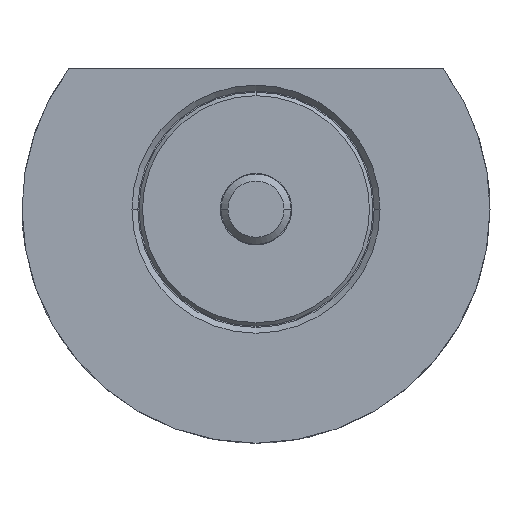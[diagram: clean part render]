
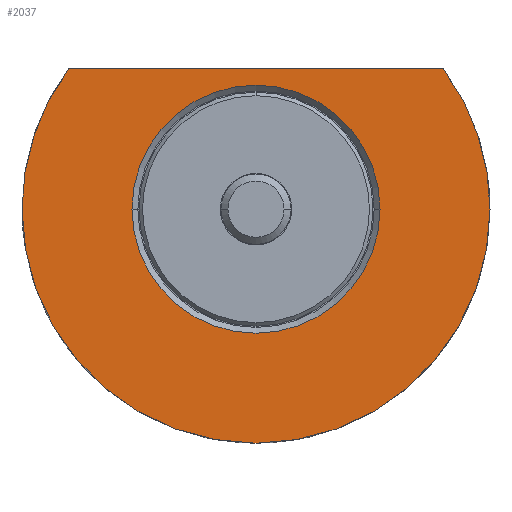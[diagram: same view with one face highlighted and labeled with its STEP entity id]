
A CAD part, front view. The second image highlights one B-rep face of the part: STEP entity #2037.
In plain terms, the highlighted planar face has unit normal (0, -1, 0).
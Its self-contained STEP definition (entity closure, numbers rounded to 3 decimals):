
#22 = EDGE_LOOP ( 'NONE', ( #1973, #1478 ) ) ;
#63 = ORIENTED_EDGE ( 'NONE', *, *, #595, .F. ) ;
#78 = CARTESIAN_POINT ( 'NONE',  ( -10.6, -10., 0. ) ) ;
#229 = EDGE_LOOP ( 'NONE', ( #1216, #1122, #2068, #63 ) ) ;
#263 = PLANE ( 'NONE',  #529 ) ;
#338 = CARTESIAN_POINT ( 'NONE',  ( 0., -10., 0. ) ) ;
#362 = DIRECTION ( 'NONE',  ( 0., 1., 0. ) ) ;
#400 = CIRCLE ( 'NONE', #1709, 20. ) ;
#412 = AXIS2_PLACEMENT_3D ( 'NONE', #908, #708, #496 ) ;
#493 = CIRCLE ( 'NONE', #412, 10.6 ) ;
#496 = DIRECTION ( 'NONE',  ( -1., 0., 0. ) ) ;
#500 = CARTESIAN_POINT ( 'NONE',  ( -16.001, -10., 11.999 ) ) ;
#529 = AXIS2_PLACEMENT_3D ( 'NONE', #78, #645, #896 ) ;
#547 = EDGE_CURVE ( 'NONE', #1098, #903, #400, .T. ) ;
#595 = EDGE_CURVE ( 'NONE', #903, #2023, #659, .T. ) ;
#616 = CARTESIAN_POINT ( 'NONE',  ( -20., -10., 0. ) ) ;
#645 = DIRECTION ( 'NONE',  ( 0., -1., 0. ) ) ;
#659 = CIRCLE ( 'NONE', #1083, 20. ) ;
#689 = CARTESIAN_POINT ( 'NONE',  ( 0., -10., 0. ) ) ;
#708 = DIRECTION ( 'NONE',  ( 0., 1., 0. ) ) ;
#714 = DIRECTION ( 'NONE',  ( 0., 1., 0. ) ) ;
#743 = AXIS2_PLACEMENT_3D ( 'NONE', #1463, #714, #2468 ) ;
#773 = CARTESIAN_POINT ( 'NONE',  ( -10.6, -10., 11.999 ) ) ;
#788 = DIRECTION ( 'NONE',  ( -1., 0., 0. ) ) ;
#813 = VERTEX_POINT ( 'NONE', #500 ) ;
#863 = EDGE_CURVE ( 'NONE', #1444, #1660, #1880, .T. ) ;
#864 = FACE_OUTER_BOUND ( 'NONE', #229, .T. ) ;
#896 = DIRECTION ( 'NONE',  ( 1., 0., 0. ) ) ;
#903 = VERTEX_POINT ( 'NONE', #1496 ) ;
#908 = CARTESIAN_POINT ( 'NONE',  ( 0., -10., 0. ) ) ;
#957 = EDGE_CURVE ( 'NONE', #2023, #813, #2599, .T. ) ;
#1083 = AXIS2_PLACEMENT_3D ( 'NONE', #338, #362, #1987 ) ;
#1098 = VERTEX_POINT ( 'NONE', #1547 ) ;
#1122 = ORIENTED_EDGE ( 'NONE', *, *, #1563, .T. ) ;
#1216 = ORIENTED_EDGE ( 'NONE', *, *, #547, .F. ) ;
#1250 = FACE_BOUND ( 'NONE', #22, .T. ) ;
#1341 = DIRECTION ( 'NONE',  ( 0., 1., 0. ) ) ;
#1354 = DIRECTION ( 'NONE',  ( -1., 0., 0. ) ) ;
#1444 = VERTEX_POINT ( 'NONE', #1764 ) ;
#1463 = CARTESIAN_POINT ( 'NONE',  ( 0., -10., 0. ) ) ;
#1478 = ORIENTED_EDGE ( 'NONE', *, *, #2272, .T. ) ;
#1496 = CARTESIAN_POINT ( 'NONE',  ( 20., -10., 0. ) ) ;
#1547 = CARTESIAN_POINT ( 'NONE',  ( 16.001, -10., 11.999 ) ) ;
#1563 = EDGE_CURVE ( 'NONE', #1098, #813, #1566, .T. ) ;
#1566 = LINE ( 'NONE', #773, #1918 ) ;
#1660 = VERTEX_POINT ( 'NONE', #2204 ) ;
#1709 = AXIS2_PLACEMENT_3D ( 'NONE', #2336, #1741, #2350 ) ;
#1741 = DIRECTION ( 'NONE',  ( 0., 1., 0. ) ) ;
#1764 = CARTESIAN_POINT ( 'NONE',  ( 10.6, -10., 0. ) ) ;
#1880 = CIRCLE ( 'NONE', #743, 10.6 ) ;
#1918 = VECTOR ( 'NONE', #788, 1000. ) ;
#1973 = ORIENTED_EDGE ( 'NONE', *, *, #863, .T. ) ;
#1987 = DIRECTION ( 'NONE',  ( -1., 0., 0. ) ) ;
#2023 = VERTEX_POINT ( 'NONE', #616 ) ;
#2037 = ADVANCED_FACE ( 'NONE', ( #1250, #864 ), #263, .T. ) ;
#2068 = ORIENTED_EDGE ( 'NONE', *, *, #957, .F. ) ;
#2204 = CARTESIAN_POINT ( 'NONE',  ( -10.6, -10., 0. ) ) ;
#2272 = EDGE_CURVE ( 'NONE', #1660, #1444, #493, .T. ) ;
#2336 = CARTESIAN_POINT ( 'NONE',  ( 0., -10., 0. ) ) ;
#2350 = DIRECTION ( 'NONE',  ( -1., 0., 0. ) ) ;
#2466 = AXIS2_PLACEMENT_3D ( 'NONE', #689, #1341, #1354 ) ;
#2468 = DIRECTION ( 'NONE',  ( -1., 0., 0. ) ) ;
#2599 = CIRCLE ( 'NONE', #2466, 20. ) ;
